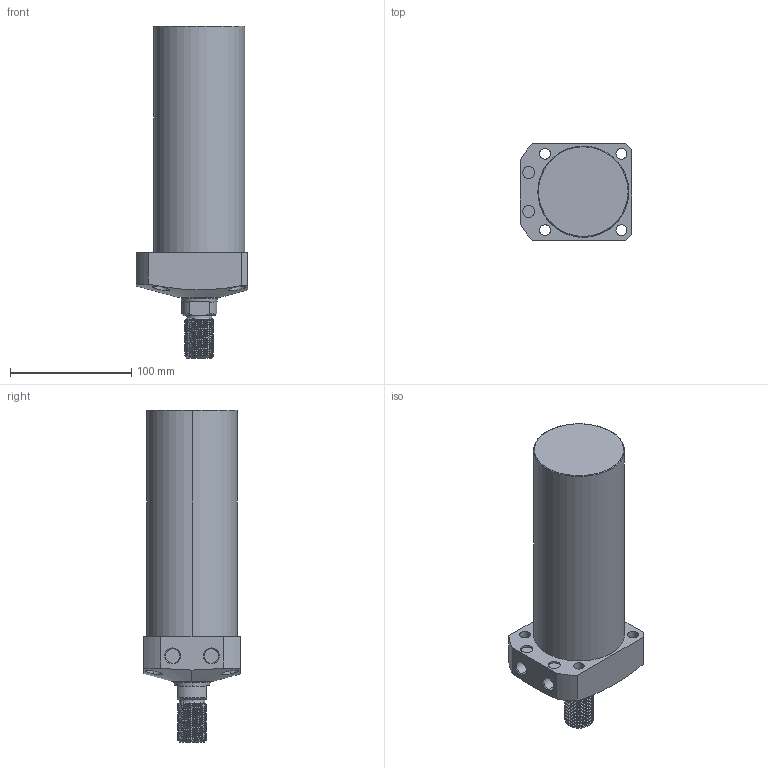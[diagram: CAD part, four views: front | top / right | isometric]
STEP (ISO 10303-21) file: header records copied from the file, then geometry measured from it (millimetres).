
FILE_DESCRIPTION (( 'STEP AP203' ), '1' );
FILE_NAME ('CLL-075CT-150.STEP', '2020-01-08T12:11:39', ( '' ), ( '' ), 'SwSTEP 2.0', 'SolidWorks 2015', '' );
FILE_SCHEMA (( 'CONFIG_CONTROL_DESIGN' ));
Length unit declared in the file: millimetre
Products named in the file (1): CLL-075CT-150
Bounding box: 92 x 80 x 274 mm (x, y, z)
Volume: 1067324.1 mm3; surface area: 78924.3 mm2
Topology: 1 solids, 1 shells, 121 faces, 310 edges, 202 vertices
Faces by surface type: cylinder 77, plane 23, cone 17, torus 2, bspline 2
Entity records: 6544 total; most frequent: CARTESIAN_POINT 3754, ORIENTED_EDGE 620, DIRECTION 517, EDGE_CURVE 310, AXIS2_PLACEMENT_3D 204, VERTEX_POINT 202, EDGE_LOOP 140, FACE_OUTER_BOUND 121
